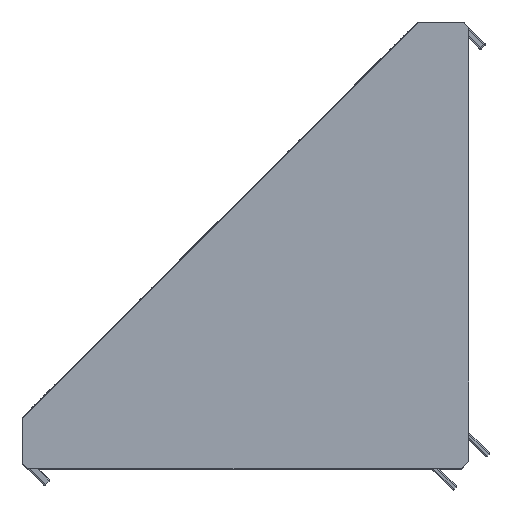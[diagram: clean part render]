
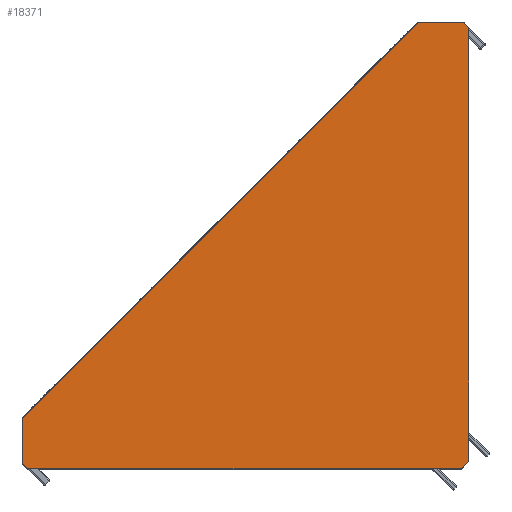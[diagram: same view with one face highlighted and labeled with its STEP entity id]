
A CAD part, top view. The second image highlights one B-rep face of the part: STEP entity #18371.
In plain terms, the highlighted planar face has unit normal (0, 0, 1).
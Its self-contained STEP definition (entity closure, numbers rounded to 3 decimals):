
#753 = LINE ( 'NONE', #2051, #754 ) ;
#754 = VECTOR ( 'NONE', #2052, 1000. ) ;
#989 = EDGE_CURVE ( 'NONE', #3253, #3250, #753, .T. ) ;
#2051 = CARTESIAN_POINT ( 'NONE',  ( 32.95, 80.6, 82. ) ) ;
#2052 = DIRECTION ( 'NONE',  ( -1., 0., 0. ) ) ;
#2223 = CARTESIAN_POINT ( 'NONE',  ( 42.677, -3.473, 82. ) ) ;
#2236 = CARTESIAN_POINT ( 'NONE',  ( 41.323, -4.827, 82. ) ) ;
#2243 = CARTESIAN_POINT ( 'NONE',  ( -42.75, 4.759, 82. ) ) ;
#2252 = CARTESIAN_POINT ( 'NONE',  ( 33.091, 80.6, 82. ) ) ;
#2255 = CARTESIAN_POINT ( 'NONE',  ( 41.75, 80.6, 82. ) ) ;
#2705 = CARTESIAN_POINT ( 'NONE',  ( 41.146, -4.9, 82. ) ) ;
#2706 = CARTESIAN_POINT ( 'NONE',  ( -41.75, -4.9, 82. ) ) ;
#2773 = CARTESIAN_POINT ( 'NONE',  ( -42.75, -3.9, 82. ) ) ;
#3221 = VERTEX_POINT ( 'NONE', #2223 ) ;
#3234 = VERTEX_POINT ( 'NONE', #2236 ) ;
#3241 = VERTEX_POINT ( 'NONE', #2243 ) ;
#3250 = VERTEX_POINT ( 'NONE', #2252 ) ;
#3253 = VERTEX_POINT ( 'NONE', #2255 ) ;
#3703 = VERTEX_POINT ( 'NONE', #2705 ) ;
#3704 = VERTEX_POINT ( 'NONE', #2706 ) ;
#3771 = VERTEX_POINT ( 'NONE', #2773 ) ;
#3888 = VERTEX_POINT ( 'NONE', #15615 ) ;
#3889 = VERTEX_POINT ( 'NONE', #15616 ) ;
#4766 = VECTOR ( 'NONE', #16632, 1000. ) ;
#4770 = LINE ( 'NONE', #16623, #4766 ) ;
#4777 = LINE ( 'NONE', #16640, #4778 ) ;
#4778 = VECTOR ( 'NONE', #16641, 1000. ) ;
#5256 = CARTESIAN_POINT ( 'NONE',  ( 42.75, -4.9, 82. ) ) ;
#5257 = DIRECTION ( 'NONE',  ( 1., 0., 0. ) ) ;
#6046 = LINE ( 'NONE', #5256, #6047 ) ;
#6047 = VECTOR ( 'NONE', #5257, 1000. ) ;
#6498 = AXIS2_PLACEMENT_3D ( 'NONE', #8844, #8856, #8857 ) ;
#6500 = AXIS2_PLACEMENT_3D ( 'NONE', #8893, #8894, #8895 ) ;
#8796 = CARTESIAN_POINT ( 'NONE',  ( 42.75, -3.4, 82. ) ) ;
#8809 = DIRECTION ( 'NONE',  ( 0.707, 0.707, 0. ) ) ;
#8844 = CARTESIAN_POINT ( 'NONE',  ( 42.5, -3.296, 82. ) ) ;
#8856 = DIRECTION ( 'NONE',  ( 0., 0., 1. ) ) ;
#8857 = DIRECTION ( 'NONE',  ( -1., 0., 0. ) ) ;
#8893 = CARTESIAN_POINT ( 'NONE',  ( 41.146, -4.65, 82. ) ) ;
#8894 = DIRECTION ( 'NONE',  ( 0., 0., 1. ) ) ;
#8895 = DIRECTION ( 'NONE',  ( -1., 0., 0. ) ) ;
#8943 = CARTESIAN_POINT ( 'NONE',  ( -4.829, 42.679, 82. ) ) ;
#8944 = DIRECTION ( 'NONE',  ( -0.707, -0.707, 0. ) ) ;
#8953 = CARTESIAN_POINT ( 'NONE',  ( 41.75, 80.6, 82. ) ) ;
#8954 = DIRECTION ( 'NONE',  ( -0.707, 0.707, 0. ) ) ;
#9030 = CARTESIAN_POINT ( 'NONE',  ( -42.75, -4.9, 82. ) ) ;
#9031 = DIRECTION ( 'NONE',  ( 0., -1., 0. ) ) ;
#9698 = LINE ( 'NONE', #8796, #9745 ) ;
#9745 = VECTOR ( 'NONE', #8809, 1000. ) ;
#9786 = CIRCLE ( 'NONE', #6498, 0.25 ) ;
#9813 = CIRCLE ( 'NONE', #6500, 0.25 ) ;
#9825 = LINE ( 'NONE', #8953, #9864 ) ;
#9857 = LINE ( 'NONE', #8943, #9858 ) ;
#9858 = VECTOR ( 'NONE', #8944, 1000. ) ;
#9864 = VECTOR ( 'NONE', #8954, 1000. ) ;
#9903 = LINE ( 'NONE', #9030, #9913 ) ;
#9913 = VECTOR ( 'NONE', #9031, 1000. ) ;
#10879 = PLANE ( 'NONE',  #11653 ) ;
#10887 = CARTESIAN_POINT ( 'NONE',  ( 42.75, -4.9, 82. ) ) ;
#10893 = DIRECTION ( 'NONE',  ( 0., 0., -1. ) ) ;
#10894 = DIRECTION ( 'NONE',  ( -1., 0., 0. ) ) ;
#11653 = AXIS2_PLACEMENT_3D ( 'NONE', #10887, #10893, #10894 ) ;
#12060 = FACE_OUTER_BOUND ( 'NONE', #14715, .T. ) ;
#14715 = EDGE_LOOP ( 'NONE', ( #19574, #19575, #19576, #19577, #19578, #19579, #19580, #19581, #19582, #19583 ) ) ;
#15615 = CARTESIAN_POINT ( 'NONE',  ( 42.75, -3.296, 82. ) ) ;
#15616 = CARTESIAN_POINT ( 'NONE',  ( 42.75, 79.6, 82. ) ) ;
#16623 = CARTESIAN_POINT ( 'NONE',  ( -41.75, -4.9, 82. ) ) ;
#16632 = DIRECTION ( 'NONE',  ( 0.707, -0.707, 0. ) ) ;
#16640 = CARTESIAN_POINT ( 'NONE',  ( 42.75, 80.6, 82. ) ) ;
#16641 = DIRECTION ( 'NONE',  ( 0., 1., 0. ) ) ;
#17100 = EDGE_CURVE ( 'NONE', #3771, #3704, #4770, .T. ) ;
#17104 = EDGE_CURVE ( 'NONE', #3888, #3889, #4777, .T. ) ;
#17278 = EDGE_CURVE ( 'NONE', #3704, #3703, #6046, .T. ) ;
#18023 = EDGE_CURVE ( 'NONE', #3234, #3221, #9698, .T. ) ;
#18045 = EDGE_CURVE ( 'NONE', #3221, #3888, #9786, .T. ) ;
#18061 = EDGE_CURVE ( 'NONE', #3703, #3234, #9813, .T. ) ;
#18085 = EDGE_CURVE ( 'NONE', #3250, #3241, #9857, .T. ) ;
#18089 = EDGE_CURVE ( 'NONE', #3889, #3253, #9825, .T. ) ;
#18120 = EDGE_CURVE ( 'NONE', #3241, #3771, #9903, .T. ) ;
#18371 = ADVANCED_FACE ( 'NONE', ( #12060 ), #10879, .F. ) ;
#19574 = ORIENTED_EDGE ( 'NONE', *, *, #18023, .T. ) ;
#19575 = ORIENTED_EDGE ( 'NONE', *, *, #18045, .T. ) ;
#19576 = ORIENTED_EDGE ( 'NONE', *, *, #17104, .T. ) ;
#19577 = ORIENTED_EDGE ( 'NONE', *, *, #18089, .T. ) ;
#19578 = ORIENTED_EDGE ( 'NONE', *, *, #989, .T. ) ;
#19579 = ORIENTED_EDGE ( 'NONE', *, *, #18085, .T. ) ;
#19580 = ORIENTED_EDGE ( 'NONE', *, *, #18120, .T. ) ;
#19581 = ORIENTED_EDGE ( 'NONE', *, *, #17100, .T. ) ;
#19582 = ORIENTED_EDGE ( 'NONE', *, *, #17278, .T. ) ;
#19583 = ORIENTED_EDGE ( 'NONE', *, *, #18061, .T. ) ;
